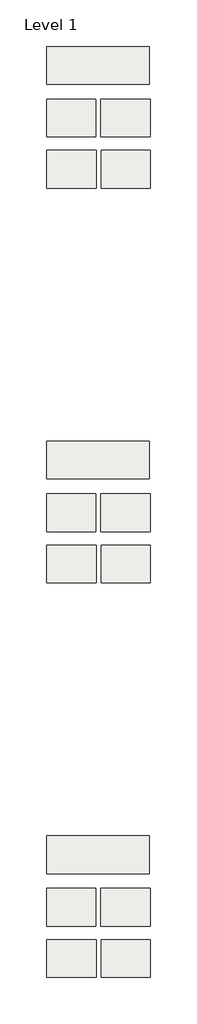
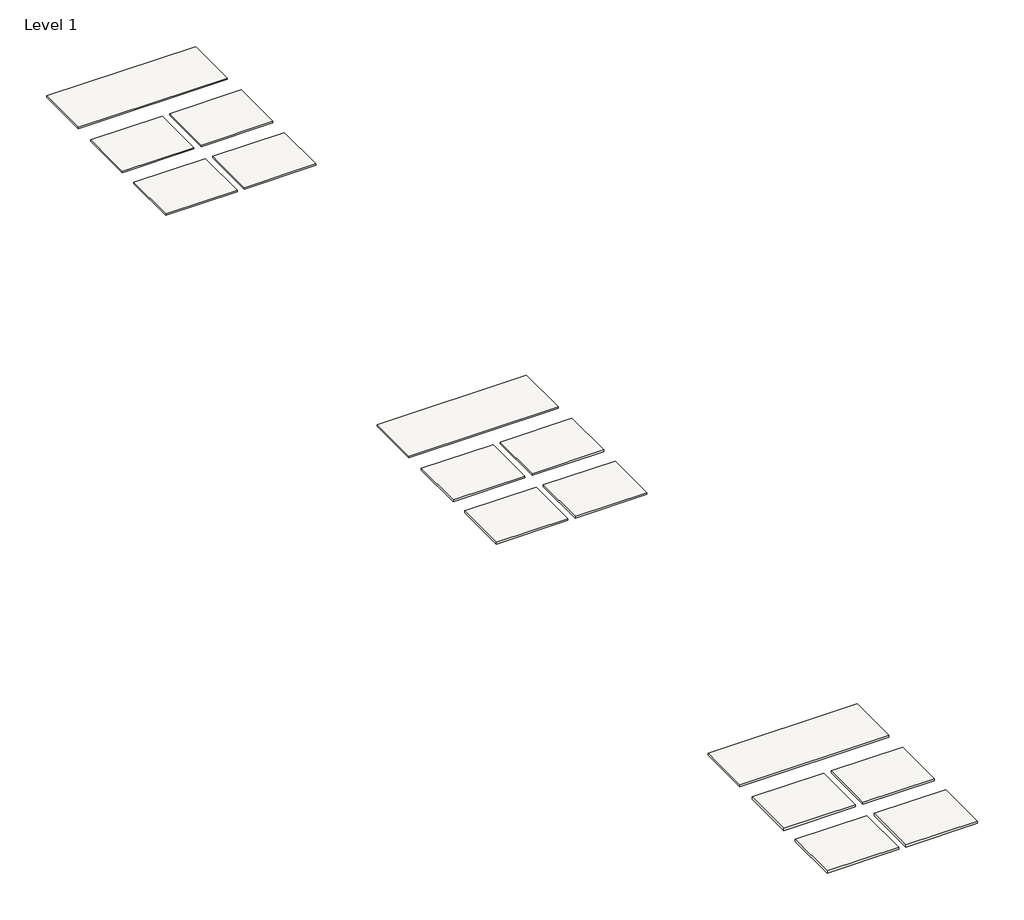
# One storey: 15 slabs.
"""IFC4 building model written with IfcOpenShell, lengths in millimetres."""

from ifc_helpers import new_model, si_unit, frame, origin, place, context, project, spatial, polyline, outline, extrude, element, save

model = new_model("IFC4")

# Units and contexts
model_context = context("Model", 3, world=origin())
ifc_project = project(units=[si_unit("LENGTHUNIT", "METRE", prefix="MILLI")], contexts=[model_context])

# Site, building, storey
site = spatial("IfcSite", under=ifc_project)
building = spatial("IfcBuilding", under=site)
storey = spatial("IfcBuildingStorey", under=building, Name="Level 1", Elevation=0.0)

# Slabs
placement = place(None, origin())
element("IfcSlab", 1, ObjectType="Edgewood Solstice Tile - 8mm Thick Black", at=placement, inside=storey, context=model_context, shape_type="SweptSolid", body=[
    extrude(outline(polyline([(-10710.067161, 12391.1250479), (-10710.067161, 12099.0250479), (-11503.817161, 12099.0250479), (-11503.817161, 12391.1250479), (-10710.067161, 12391.1250479)])), frame((0.0, 0.0, -8.0367188), z_axis=(0.0, 0.0, 1.0), x_axis=(1.0, 0.0, 0.0)), (0.0, 0.0, 1.0), 8.0367188),
])
element("IfcSlab", 2, ObjectType="Edgewood Solstice Tile - 8mm Thick Earth", at=placement, inside=storey, context=model_context, shape_type="SweptSolid", body=[
    extrude(outline(polyline([(-11122.817161, 11984.7250479), (-11122.817161, 11692.6250479), (-11503.817161, 11692.6250479), (-11503.817161, 11984.7250479), (-11122.817161, 11984.7250479)])), frame((0.0, 0.0, -8.0367188), z_axis=(0.0, 0.0, 1.0), x_axis=(1.0, 0.0, 0.0)), (0.0, 0.0, 1.0), 8.0367188),
])
element("IfcSlab", 3, ObjectType="Edgewood Solstice Tile - 8mm Thick Dusk", at=placement, inside=storey, context=model_context, shape_type="SweptSolid", body=[
    extrude(outline(polyline([(-10702.923411, 11984.7250479), (-10702.923411, 11692.6250479), (-11083.923411, 11692.6250479), (-11083.923411, 11984.7250479), (-10702.923411, 11984.7250479)])), frame((0.0, 0.0, -8.0367188), z_axis=(0.0, 0.0, 1.0), x_axis=(1.0, 0.0, 0.0)), (0.0, 0.0, 1.0), 8.0367188),
])
element("IfcSlab", 4, ObjectType="Edgewood Solstice Tile - 8mm Thick Blue Sky", at=placement, inside=storey, context=model_context, shape_type="SweptSolid", body=[
    extrude(outline(polyline([(-11121.1745676, 11589.0957663), (-11121.1745676, 11296.9957663), (-11502.1745676, 11296.9957663), (-11502.1745676, 11589.0957663), (-11121.1745676, 11589.0957663)])), frame((0.0, 0.0, -8.0367188), z_axis=(0.0, 0.0, 1.0), x_axis=(1.0, 0.0, 0.0)), (0.0, 0.0, 1.0), 8.0367188),
])
element("IfcSlab", 5, ObjectType="Edgewood Solstice Tile - 8mm Thick Night Sky", at=placement, inside=storey, context=model_context, shape_type="SweptSolid", body=[
    extrude(outline(polyline([(-10702.0745676, 11589.0957663), (-10702.0745676, 11296.9957663), (-11083.0745676, 11296.9957663), (-11083.0745676, 11589.0957663), (-10702.0745676, 11589.0957663)])), frame((0.0, 0.0, -8.0367188), z_axis=(0.0, 0.0, 1.0), x_axis=(1.0, 0.0, 0.0)), (0.0, 0.0, 1.0), 8.0367188),
])
element("IfcSlab", 6, ObjectType="Edgewood Solstice Tile - 10mm Thick Black", at=placement, inside=storey, context=model_context, shape_type="SweptSolid", body=[
    extrude(outline(polyline([(-10710.067161, 9343.1250479), (-10710.067161, 9051.0250479), (-11503.817161, 9051.0250479), (-11503.817161, 9343.1250479), (-10710.067161, 9343.1250479)])), frame((0.0, 0.0, -10.0210938), z_axis=(0.0, 0.0, 1.0), x_axis=(1.0, 0.0, 0.0)), (0.0, 0.0, 1.0), 10.0210938),
])
element("IfcSlab", 7, ObjectType="Edgewood Solstice Tile - 10mm Thick Earth", at=placement, inside=storey, context=model_context, shape_type="SweptSolid", body=[
    extrude(outline(polyline([(-11122.817161, 8936.7250479), (-11122.817161, 8644.6250479), (-11503.817161, 8644.6250479), (-11503.817161, 8936.7250479), (-11122.817161, 8936.7250479)])), frame((0.0, 0.0, -10.0210938), z_axis=(0.0, 0.0, 1.0), x_axis=(1.0, 0.0, 0.0)), (0.0, 0.0, 1.0), 10.0210938),
])
element("IfcSlab", 8, ObjectType="Edgewood Solstice Tile - 10mm Thick Dusk", at=placement, inside=storey, context=model_context, shape_type="SweptSolid", body=[
    extrude(outline(polyline([(-10702.923411, 8936.7250479), (-10702.923411, 8644.6250479), (-11083.923411, 8644.6250479), (-11083.923411, 8936.7250479), (-10702.923411, 8936.7250479)])), frame((0.0, 0.0, -10.0210938), z_axis=(0.0, 0.0, 1.0), x_axis=(1.0, 0.0, 0.0)), (0.0, 0.0, 1.0), 10.0210938),
])
element("IfcSlab", 9, ObjectType="Edgewood Solstice Tile - 10mm Thick Blue Sky", at=placement, inside=storey, context=model_context, shape_type="SweptSolid", body=[
    extrude(outline(polyline([(-11121.1745676, 8541.0957663), (-11121.1745676, 8248.9957663), (-11502.1745676, 8248.9957663), (-11502.1745676, 8541.0957663), (-11121.1745676, 8541.0957663)])), frame((0.0, 0.0, -10.0210938), z_axis=(0.0, 0.0, 1.0), x_axis=(1.0, 0.0, 0.0)), (0.0, 0.0, 1.0), 10.0210938),
])
element("IfcSlab", 10, ObjectType="Edgewood Solstice Tile - 10mm Thick Night Sky", at=placement, inside=storey, context=model_context, shape_type="SweptSolid", body=[
    extrude(outline(polyline([(-10702.0745676, 8541.0957663), (-10702.0745676, 8248.9957663), (-11083.0745676, 8248.9957663), (-11083.0745676, 8541.0957663), (-10702.0745676, 8541.0957663)])), frame((0.0, 0.0, -10.0210938), z_axis=(0.0, 0.0, 1.0), x_axis=(1.0, 0.0, 0.0)), (0.0, 0.0, 1.0), 10.0210938),
])
element("IfcSlab", 11, ObjectType="Edgewood Solstice Tile - 12mm Thick Black", at=placement, inside=storey, context=model_context, shape_type="SweptSolid", body=[
    extrude(outline(polyline([(-10710.067161, 6295.1250479), (-10710.067161, 6003.0250479), (-11503.817161, 6003.0250479), (-11503.817161, 6295.1250479), (-10710.067161, 6295.1250479)])), frame((0.0, 0.0, -12.0054688), z_axis=(0.0, 0.0, 1.0), x_axis=(1.0, 0.0, 0.0)), (0.0, 0.0, 1.0), 12.0054688),
])
element("IfcSlab", 12, ObjectType="Edgewood Solstice Tile - 12mm Thick Earth", at=placement, inside=storey, context=model_context, shape_type="SweptSolid", body=[
    extrude(outline(polyline([(-11122.817161, 5888.7250479), (-11122.817161, 5596.6250479), (-11503.817161, 5596.6250479), (-11503.817161, 5888.7250479), (-11122.817161, 5888.7250479)])), frame((0.0, 0.0, -12.0054688), z_axis=(0.0, 0.0, 1.0), x_axis=(1.0, 0.0, 0.0)), (0.0, 0.0, 1.0), 12.0054688),
])
element("IfcSlab", 13, ObjectType="Edgewood Solstice Tile - 12mm Thick Dusk", at=placement, inside=storey, context=model_context, shape_type="SweptSolid", body=[
    extrude(outline(polyline([(-10702.923411, 5888.7250479), (-10702.923411, 5596.6250479), (-11083.923411, 5596.6250479), (-11083.923411, 5888.7250479), (-10702.923411, 5888.7250479)])), frame((0.0, 0.0, -12.0054688), z_axis=(0.0, 0.0, 1.0), x_axis=(1.0, 0.0, 0.0)), (0.0, 0.0, 1.0), 12.0054688),
])
element("IfcSlab", 14, ObjectType="Edgewood Solstice Tile - 12mm Thick Blue Sky", at=placement, inside=storey, context=model_context, shape_type="SweptSolid", body=[
    extrude(outline(polyline([(-11121.1745676, 5493.0957663), (-11121.1745676, 5200.9957663), (-11502.1745676, 5200.9957663), (-11502.1745676, 5493.0957663), (-11121.1745676, 5493.0957663)])), frame((0.0, 0.0, -12.0054688), z_axis=(0.0, 0.0, 1.0), x_axis=(1.0, 0.0, 0.0)), (0.0, 0.0, 1.0), 12.0054688),
])
element("IfcSlab", 15, ObjectType="Edgewood Solstice Tile - 12mm Thick Night Sky", at=placement, inside=storey, context=model_context, shape_type="SweptSolid", body=[
    extrude(outline(polyline([(-10702.0745676, 5493.0957663), (-10702.0745676, 5200.9957663), (-11083.0745676, 5200.9957663), (-11083.0745676, 5493.0957663), (-10702.0745676, 5493.0957663)])), frame((0.0, 0.0, -12.0054688), z_axis=(0.0, 0.0, 1.0), x_axis=(1.0, 0.0, 0.0)), (0.0, 0.0, 1.0), 12.0054688),
])

save(model, "model.ifc")
